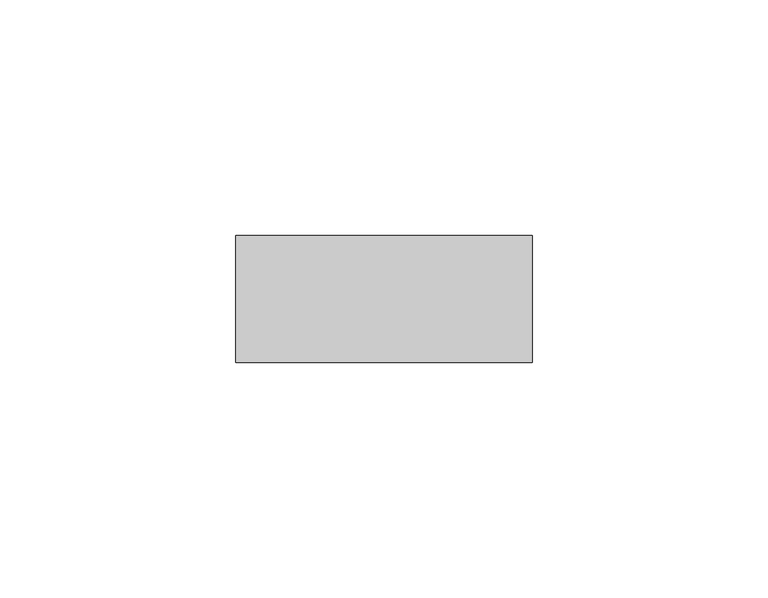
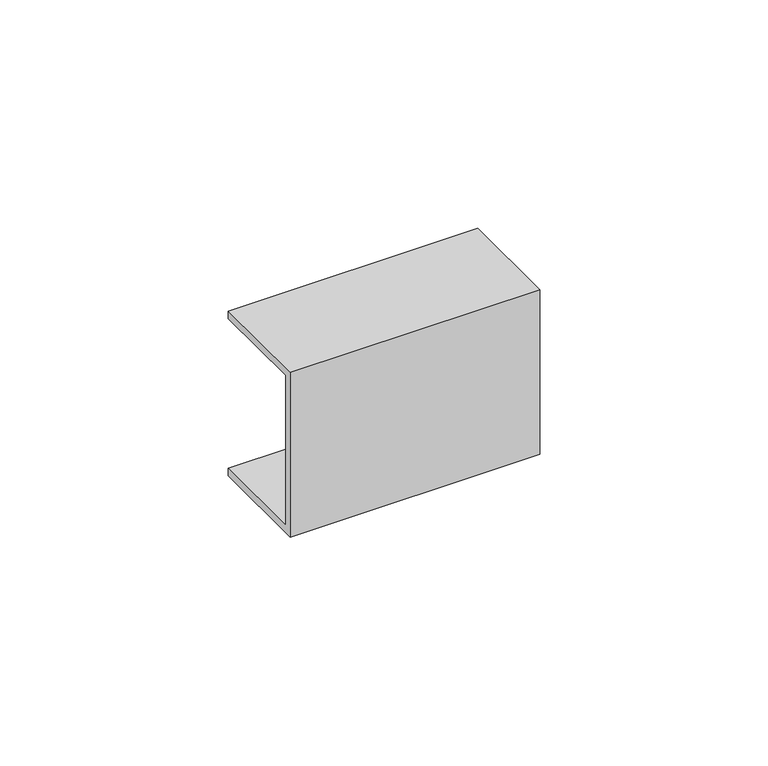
"""IFC4 building model written with IfcOpenShell, lengths in millimetres: proxy geometry, Соединитель_КМС : Соединитель КМС 40x25."""

from ifc_helpers import new_model, si_unit, frame, origin, place, context, project, spatial, polyline, outline, extrude, source, transform, mapped, element, save


def generic_models_7e45a897(model_context):
    return source(origin(), model_context, "Body", "SweptSolid", [
        extrude(outline(polyline([(-27.0, 42.0), (0.0, 42.0), (0.0, 40.0), (-25.0, 40.0), (-25.0, 0.0), (0.0, 0.0), (0.0, -2.0), (-27.0, -2.0), (-27.0, 42.0)])), frame((0.0, 0.0, 0.0), z_axis=(1.0, 0.0, 0.0), x_axis=(0.0, 1.0, 0.0)), (0.0, 0.0, 1.0), 63.0),
    ])


if __name__ == "__main__":
    model = new_model("IFC4")
    model_context = context("Model", 3, world=origin())
    ifc_project = project(units=[si_unit("LENGTHUNIT", "METRE", prefix="MILLI")], contexts=[model_context])
    site = spatial("IfcSite", under=ifc_project)
    building = spatial("IfcBuilding", under=site)
    placement = place(None, origin())
    generic_models_shape = generic_models_7e45a897(model_context)
    element("IfcBuildingElementProxy", 1, Name="Соединитель_КМС : Соединитель КМС 40x25", ObjectType="Соединитель_КМС : Соединитель КМС 40x25", at=placement, inside=building, context=model_context, shape_type="MappedRepresentation", body=[
        mapped(generic_models_shape, transform((0.0, 0.0, 0.0), x_axis=(1.0, 0.0, 0.0), y_axis=(0.0, 1.0, 0.0), z_axis=(0.0, 0.0, 1.0))),
    ])
    save(model, "model.ifc")
